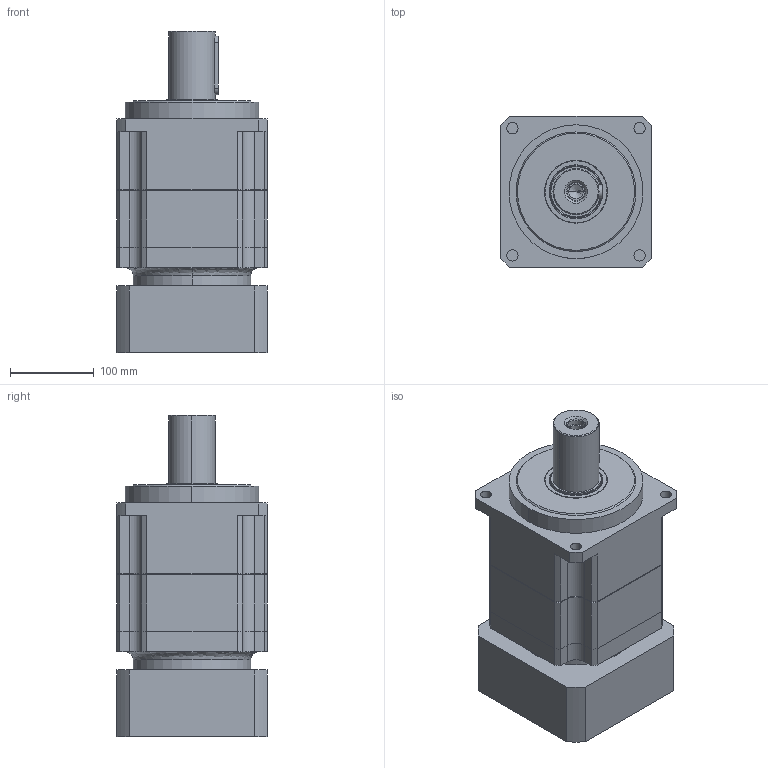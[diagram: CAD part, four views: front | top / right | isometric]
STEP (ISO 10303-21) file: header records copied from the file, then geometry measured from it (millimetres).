
FILE_DESCRIPTION (( 'STEP AP214' ), '1' );
FILE_NAME ('PLG180-L2-42-114.STEP', '2022-04-23T06:09:58', ( '' ), ( '' ), 'SwSTEP 2.0', 'SolidWorks 2017', '' );
FILE_SCHEMA (( 'AUTOMOTIVE_DESIGN' ));
Length unit declared in the file: millimetre
Products named in the file (8): PLG180薊粣ん-42; 内六角圆柱头螺钉M10×35; PLG180 一级连接板 180匡 114.3x10 200xM12 80L 目录_D4-114.3 D7-200 D8-M12 A2-180 L5-10 L6-83(45+38) R-117 标准; TC60-75-9_TC-34.9-55-7; 邧埴瑩 16x10x70; PLG180齿圈转架; PLG180二级齿圈; PLG180-L2-42-114
Assembly tree (7 placements, depth 2):
  PLG180-L2-42-114
    PLG180齿圈转架
    PLG180二级齿圈
    PLG180薊粣ん-42
    PLG180 一级连接板 180匡 114.3x10 200xM12 80L 目录_D4-114.3 D7-200 D8-M12 A2-180 L5-10 L6-83(45+38) R-117 标准
    邧埴瑩 16x10x70
    TC60-75-9_TC-34.9-55-7
    内六角圆柱头螺钉M10×35
Bounding box: 180 x 180 x 384.5 mm (x, y, z)
Volume: 7862592.6 mm3; surface area: 560168.4 mm2
Topology: 7 solids, 7 shells, 441 faces, 1126 edges, 710 vertices
Faces by surface type: cylinder 209, plane 148, cone 62, bspline 22
Entity records: 20328 total; most frequent: CARTESIAN_POINT 4232, DIRECTION 2429, ORIENTED_EDGE 2192, EDGE_CURVE 1096, AXIS2_PLACEMENT_3D 947, VERTEX_POINT 710, LINE 535, VECTOR 535
